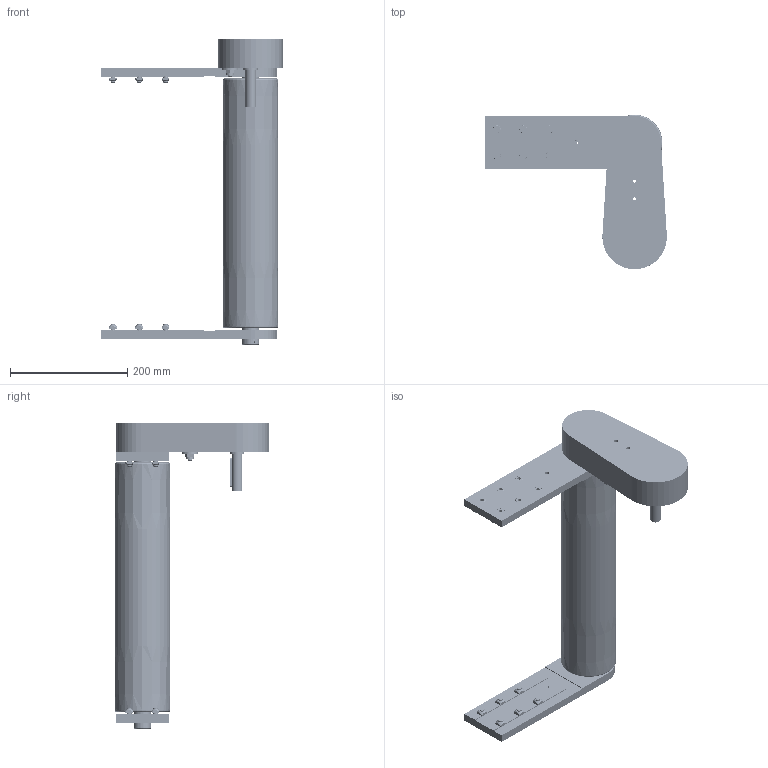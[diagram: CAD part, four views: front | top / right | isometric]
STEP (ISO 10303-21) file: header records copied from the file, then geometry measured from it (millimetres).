
FILE_DESCRIPTION (( 'STEP AP203' ), '1' );
FILE_NAME ('084.095.KTC.44.400.step', '2013-02-28T12:01:37', ( '' ), ( '' ), 'SwSTEP 2.0', 'SolidWorks 2011', '' );
FILE_SCHEMA (( 'CONFIG_CONTROL_DESIGN' ));
Products named in the file (24): 084.095.KTC.44.400; 084.813.004; 084.302.000 DADI ALUSIC 13x13_084.302.004; 084.301.000 VITI ALUSIC_084.301.003; 084.809.003; 084.810.005; Torque nut 01_ALUSIC_ISO 7040-M8-S; Plain Washer XLarge Grade C_ALUSIC_Washer ISO 7094 - 8; Circlip for Shafts normal_din_Circlip DIN 471 - 8 x 0.8; CUSCINETTI A SFERE_608-2RS; 084.810.004; 084.810.007; CHIAVETTE_A 6x6x50 UNI 6604-69; 084.803.012; 084.803.014; 084.809.001; 084.808.002_084.808.002; 084.808.003_084.808.003; 084.802.019_084.802.019; 084.802.034_084.802.034; 084.810.003; 084.813.002; 084.812.003; 084.816.107_084.816.107<A macchina>
Assembly tree (48 placements, depth 3):
  084.095.KTC.44.400
    084.301.000 VITI ALUSIC_084.301.003  x12
    084.813.002
    084.302.000 DADI ALUSIC 13x13_084.302.004  x12
    084.808.003_084.808.003
    084.813.004
    084.816.107_084.816.107<A macchina>
    084.812.003
    084.809.001
    084.802.034_084.802.034
    084.810.003  x2
    084.808.002_084.808.002
    084.803.014  x2
    084.803.012
    084.809.003
    084.810.005
      084.810.004
      Torque nut 01_ALUSIC_ISO 7040-M8-S
      084.810.007
      Plain Washer XLarge Grade C_ALUSIC_Washer ISO 7094 - 8
      CUSCINETTI A SFERE_608-2RS  x2
      Circlip for Shafts normal_din_Circlip DIN 471 - 8 x 0.8
    CHIAVETTE_A 6x6x50 UNI 6604-69
    084.802.019_084.802.019
Bounding box: 310 x 264 x 523.5 mm (x, y, z)
Volume: 2002580 mm3; surface area: 891410.5 mm2
Topology: 77 solids, 78 shells, 3125 faces, 7340 edges, 4688 vertices
Faces by surface type: cylinder 1491, plane 850, bspline 468, cone 197, torus 110, sphere 9
Entity records: 84061 total; most frequent: CARTESIAN_POINT 18902, DIRECTION 14115, ORIENTED_EDGE 12230, EDGE_CURVE 6115, AXIS2_PLACEMENT_3D 5946, VERTEX_POINT 3893, CIRCLE 3737, EDGE_LOOP 3198
